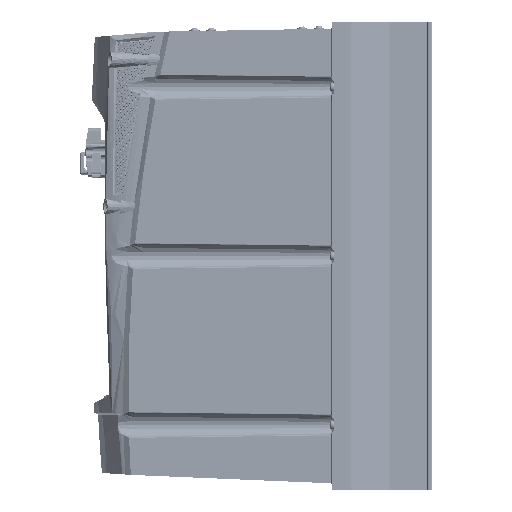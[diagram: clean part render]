
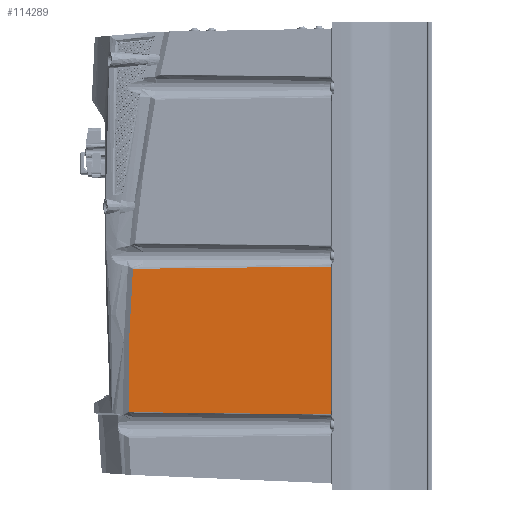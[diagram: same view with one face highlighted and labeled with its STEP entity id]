
A CAD part, left-side view. The second image highlights one B-rep face of the part: STEP entity #114289.
In plain terms, the highlighted planar face has unit normal (-1, 0.018, 0).
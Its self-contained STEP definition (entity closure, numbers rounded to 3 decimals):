
#2010 = CARTESIAN_POINT ( 'NONE',  ( -107.203, 232.677, -46.555 ) ) ;
#15671 = CARTESIAN_POINT ( 'NONE',  ( -107.186, 233.664, -120.086 ) ) ;
#16789 = EDGE_CURVE ( 'NONE', #174365, #236265, #56519, .T. ) ;
#29548 = DIRECTION ( 'NONE',  ( 0.017, 1., 0. ) ) ;
#32383 = CARTESIAN_POINT ( 'NONE',  ( -107.245, 230.278, -9.867 ) ) ;
#33574 = CARTESIAN_POINT ( 'NONE',  ( -108.998, 129.88, -121.237 ) ) ;
#35236 = CARTESIAN_POINT ( 'NONE',  ( -109.903, 77.991, -121.897 ) ) ;
#36296 = CARTESIAN_POINT ( 'NONE',  ( -107.186, 233.664, -120.073 ) ) ;
#54332 = CARTESIAN_POINT ( 'NONE',  ( -107.186, 233.664, -120.073 ) ) ;
#56519 = B_SPLINE_CURVE_WITH_KNOTS ( 'NONE', 3,
 ( #142365, #15671, #318001, #270709 ),
 .UNSPECIFIED., .F., .F.,
 ( 4, 4 ),
 ( 0., 0. ),
 .UNSPECIFIED. ) ;
#57538 = ORIENTED_EDGE ( 'NONE', *, *, #66618, .T. ) ;
#63863 = CARTESIAN_POINT ( 'NONE',  ( -107.245, 230.279, -9.874 ) ) ;
#66618 = EDGE_CURVE ( 'NONE', #94703, #174365, #304401, .T. ) ;
#74354 = CARTESIAN_POINT ( 'NONE',  ( -107.245, 230.276, -9.853 ) ) ;
#78283 = ORIENTED_EDGE ( 'NONE', *, *, #279184, .T. ) ;
#87739 = B_SPLINE_CURVE_WITH_KNOTS ( 'NONE', 3,
 ( #169737, #222071, #277706, #323322 ),
 .UNSPECIFIED., .F., .F.,
 ( 4, 4 ),
 ( 0., 0.152 ),
 .UNSPECIFIED. ) ;
#88545 = CARTESIAN_POINT ( 'NONE',  ( -110.001, 72.413, -180. ) ) ;
#94703 = VERTEX_POINT ( 'NONE', #63863 ) ;
#97681 = ORIENTED_EDGE ( 'NONE', *, *, #217553, .T. ) ;
#100575 = LINE ( 'NONE', #154640, #276213 ) ;
#103970 = B_SPLINE_CURVE_WITH_KNOTS ( 'NONE', 3,
 ( #160219, #112881, #33574, #35236 ),
 .UNSPECIFIED., .F., .F.,
 ( 4, 4 ),
 ( 0., 0.156 ),
 .UNSPECIFIED. ) ;
#104953 = CARTESIAN_POINT ( 'NONE',  ( -107.184, 233.806, -83.314 ) ) ;
#112881 = CARTESIAN_POINT ( 'NONE',  ( -108.092, 181.77, -120.653 ) ) ;
#114289 = ADVANCED_FACE ( 'NONE', ( #216875 ), #319824, .T. ) ;
#127912 = VERTEX_POINT ( 'NONE', #333141 ) ;
#142365 = CARTESIAN_POINT ( 'NONE',  ( -107.186, 233.664, -120.073 ) ) ;
#154625 = VERTEX_POINT ( 'NONE', #74354 ) ;
#154640 = CARTESIAN_POINT ( 'NONE',  ( -109.903, 77.991, -180. ) ) ;
#154758 = ORIENTED_EDGE ( 'NONE', *, *, #16789, .T. ) ;
#159202 = B_SPLINE_CURVE_WITH_KNOTS ( 'NONE', 3,
 ( #292374, #208060, #32383, #265413 ),
 .UNSPECIFIED., .F., .F.,
 ( 4, 4 ),
 ( 0., 0. ),
 .UNSPECIFIED. ) ;
#160219 = CARTESIAN_POINT ( 'NONE',  ( -107.186, 233.661, -120.112 ) ) ;
#169737 = CARTESIAN_POINT ( 'NONE',  ( -109.903, 77.991, -8.103 ) ) ;
#174365 = VERTEX_POINT ( 'NONE', #36296 ) ;
#179993 = DIRECTION ( 'NONE',  ( 0., 0., 1. ) ) ;
#180999 = CARTESIAN_POINT ( 'NONE',  ( -107.245, 230.279, -9.874 ) ) ;
#187071 = CARTESIAN_POINT ( 'NONE',  ( -107.186, 233.661, -120.112 ) ) ;
#188924 = EDGE_CURVE ( 'NONE', #127912, #154625, #87739, .T. ) ;
#196556 = EDGE_CURVE ( 'NONE', #236265, #207848, #103970, .T. ) ;
#207848 = VERTEX_POINT ( 'NONE', #235369 ) ;
#208060 = CARTESIAN_POINT ( 'NONE',  ( -107.245, 230.277, -9.86 ) ) ;
#216875 = FACE_OUTER_BOUND ( 'NONE', #321429, .T. ) ;
#217553 = EDGE_CURVE ( 'NONE', #207848, #127912, #100575, .T. ) ;
#222071 = CARTESIAN_POINT ( 'NONE',  ( -109.017, 128.752, -8.749 ) ) ;
#235369 = CARTESIAN_POINT ( 'NONE',  ( -109.903, 77.991, -121.897 ) ) ;
#236265 = VERTEX_POINT ( 'NONE', #187071 ) ;
#260897 = DIRECTION ( 'NONE',  ( -1., 0.017, 0. ) ) ;
#265413 = CARTESIAN_POINT ( 'NONE',  ( -107.245, 230.279, -9.874 ) ) ;
#270709 = CARTESIAN_POINT ( 'NONE',  ( -107.186, 233.661, -120.112 ) ) ;
#274853 = AXIS2_PLACEMENT_3D ( 'NONE', #88545, #260897, #29548 ) ;
#276213 = VECTOR ( 'NONE', #179993, 1000. ) ;
#277706 = CARTESIAN_POINT ( 'NONE',  ( -108.131, 179.514, -9.321 ) ) ;
#279184 = EDGE_CURVE ( 'NONE', #154625, #94703, #159202, .T. ) ;
#283960 = CARTESIAN_POINT ( 'NONE',  ( -107.221, 231.689, -28.201 ) ) ;
#287085 = ORIENTED_EDGE ( 'NONE', *, *, #196556, .T. ) ;
#292374 = CARTESIAN_POINT ( 'NONE',  ( -107.245, 230.276, -9.853 ) ) ;
#293063 = ORIENTED_EDGE ( 'NONE', *, *, #188924, .T. ) ;
#304401 = B_SPLINE_CURVE_WITH_KNOTS ( 'NONE', 3,
 ( #180999, #283960, #2010, #104953, #310951, #54332 ),
 .UNSPECIFIED., .F., .F.,
 ( 4, 2, 4 ),
 ( 0.003, 0.5, 0.997 ),
 .UNSPECIFIED. ) ;
#310951 = CARTESIAN_POINT ( 'NONE',  ( -107.181, 233.947, -101.694 ) ) ;
#318001 = CARTESIAN_POINT ( 'NONE',  ( -107.186, 233.663, -120.099 ) ) ;
#319824 = PLANE ( 'NONE',  #274853 ) ;
#321429 = EDGE_LOOP ( 'NONE', ( #57538, #154758, #287085, #97681, #293063, #78283 ) ) ;
#323322 = CARTESIAN_POINT ( 'NONE',  ( -107.245, 230.276, -9.853 ) ) ;
#333141 = CARTESIAN_POINT ( 'NONE',  ( -109.903, 77.991, -8.103 ) ) ;
